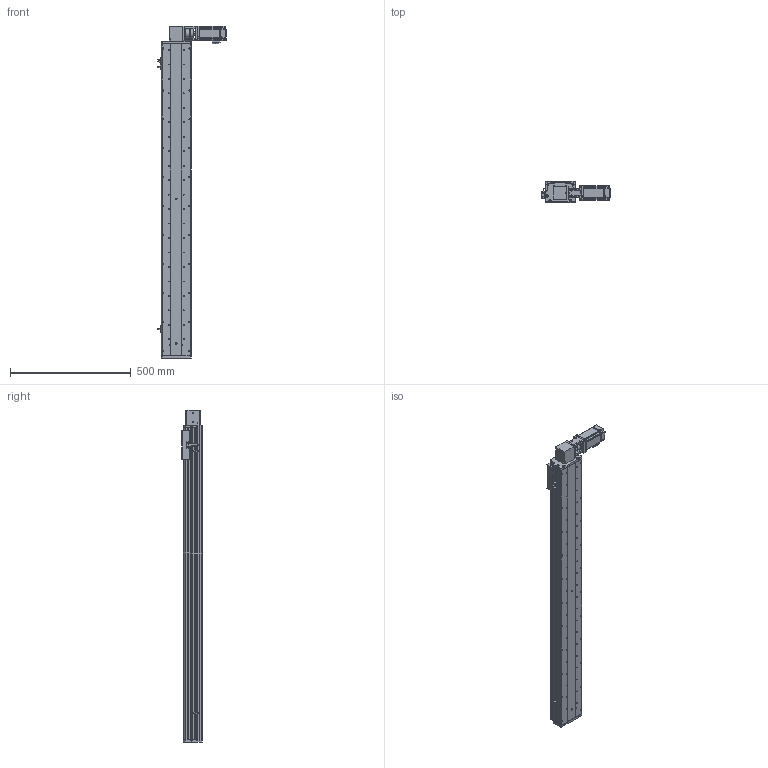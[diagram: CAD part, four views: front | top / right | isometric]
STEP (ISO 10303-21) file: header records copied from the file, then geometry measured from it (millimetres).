
FILE_DESCRIPTION (( 'STEP AP214' ), '1' );
FILE_NAME ('KSD125B-S1100-MRT-CM.STEP', '2017-10-21T07:05:31', ( '微软用户' ), ( '微软中国' ), 'SwSTEP 2.0', 'SolidWorks 2014', '' );
FILE_SCHEMA (( 'AUTOMOTIVE_DESIGN' ));
Length unit declared in the file: millimetre
Products named in the file (16): 100宽马达安装板同步带左; KSD125模组1100行程同步带-防尘盖; 125模组1100行程同步带-底板; MHMD042G1CA_2_03; KSD125模组同步带-防撞垫2; CS-34X32-10X14; 100遵鎮湛假蚾啣1 ; 覜茼え68遵圉猾敕; U倰嫖萇假蚾璃; U倰嫖萇EEㄜSX672; KSD125模组同步带-防撞垫1; 100宽安装板同步带带电机座400W,86; 前端板-125宽模组同步带; 125模组同步带-尾端板1; KSD125模组同步带-滑动座1; KSD125B-S1100-MRT-CM
Assembly tree (19 placements, depth 2):
  KSD125B-S1100-MRT-CM
    KSD125模组同步带-滑动座1
    125模组同步带-尾端板1
    前端板-125宽模组同步带
    100宽安装板同步带带电机座400W,86
    KSD125模组同步带-防撞垫1
    U倰嫖萇EEㄜSX672  x3
    U倰嫖萇假蚾璃  x3
    覜茼え68遵圉猾敕
    100遵鎮湛假蚾啣1 
    CS-34X32-10X14
    KSD125模组同步带-防撞垫2
    MHMD042G1CA_2_03
    125模组1100行程同步带-底板
    KSD125模组1100行程同步带-防尘盖
    100宽马达安装板同步带左
Bounding box: 282.7 x 86 x 1377 mm (x, y, z)
Volume: 4176418.9 mm3; surface area: 1371916.8 mm2
Topology: 18 solids, 21 shells, 1732 faces, 4972 edges, 3280 vertices
Faces by surface type: cylinder 921, plane 708, cone 81, bspline 22
Entity records: 61176 total; most frequent: CARTESIAN_POINT 12338, DIRECTION 8963, ORIENTED_EDGE 8464, EDGE_CURVE 4310, AXIS2_PLACEMENT_3D 3345, VERTEX_POINT 2872, LINE 2273, VECTOR 2273
